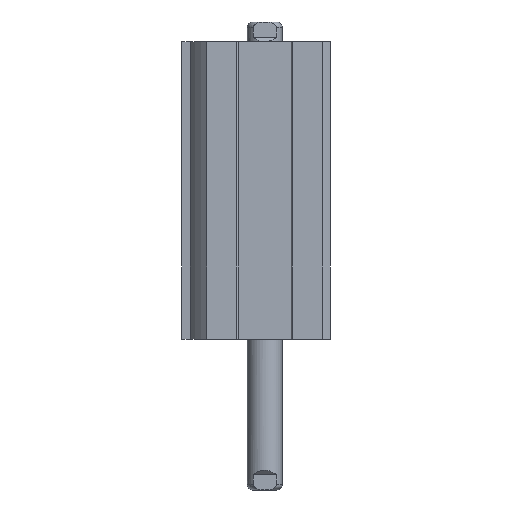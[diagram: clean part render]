
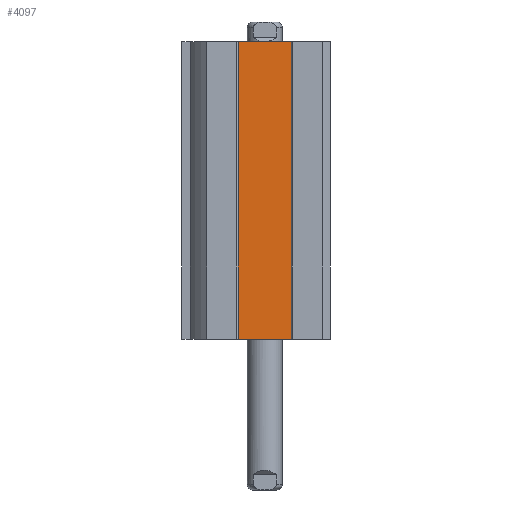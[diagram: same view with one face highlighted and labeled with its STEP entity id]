
A CAD part, left-side view. The second image highlights one B-rep face of the part: STEP entity #4097.
In plain terms, the highlighted planar face has unit normal (-1, 0, 0).
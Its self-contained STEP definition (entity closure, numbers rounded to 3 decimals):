
#134=PLANE('',#4362);
#229=LINE('',#5957,#395);
#230=LINE('',#5959,#396);
#231=LINE('',#5961,#397);
#232=LINE('',#5963,#398);
#395=VECTOR('',#4883,1000.);
#396=VECTOR('',#4886,1000.);
#397=VECTOR('',#4887,1000.);
#398=VECTOR('',#4888,1000.);
#626=ORIENTED_EDGE('',*,*,#1412,.T.);
#627=ORIENTED_EDGE('',*,*,#1411,.F.);
#628=ORIENTED_EDGE('',*,*,#1413,.T.);
#629=ORIENTED_EDGE('',*,*,#1414,.T.);
#1411=EDGE_CURVE('',#1809,#1808,#229,.T.);
#1412=EDGE_CURVE('',#1810,#1808,#230,.T.);
#1413=EDGE_CURVE('',#1809,#1811,#231,.T.);
#1414=EDGE_CURVE('',#1811,#1810,#232,.T.);
#1808=VERTEX_POINT('',#5954);
#1809=VERTEX_POINT('',#5956);
#1810=VERTEX_POINT('',#5960);
#1811=VERTEX_POINT('',#5962);
#2334=EDGE_LOOP('',(#626,#627,#628,#629));
#2661=FACE_BOUND('',#2334,.T.);
#4097=ADVANCED_FACE('',(#2661),#134,.T.);
#4362=AXIS2_PLACEMENT_3D('',#5958,#4884,#4885);
#4883=DIRECTION('',(0.,0.,1.));
#4884=DIRECTION('',(-1.,0.,0.));
#4885=DIRECTION('',(0.,0.,1.));
#4886=DIRECTION('',(0.,1.,0.));
#4887=DIRECTION('',(0.,-1.,0.));
#4888=DIRECTION('',(0.,0.,1.));
#5954=CARTESIAN_POINT('',(-10.,6.124,68.));
#5956=CARTESIAN_POINT('',(-10.,6.124,0.));
#5957=CARTESIAN_POINT('',(-10.,6.124,0.));
#5958=CARTESIAN_POINT('',(-10.,-6.124,0.));
#5959=CARTESIAN_POINT('',(-10.,-6.124,68.));
#5960=CARTESIAN_POINT('',(-10.,-6.124,68.));
#5961=CARTESIAN_POINT('',(-10.,6.124,0.));
#5962=CARTESIAN_POINT('',(-10.,-6.124,0.));
#5963=CARTESIAN_POINT('',(-10.,-6.124,0.));
